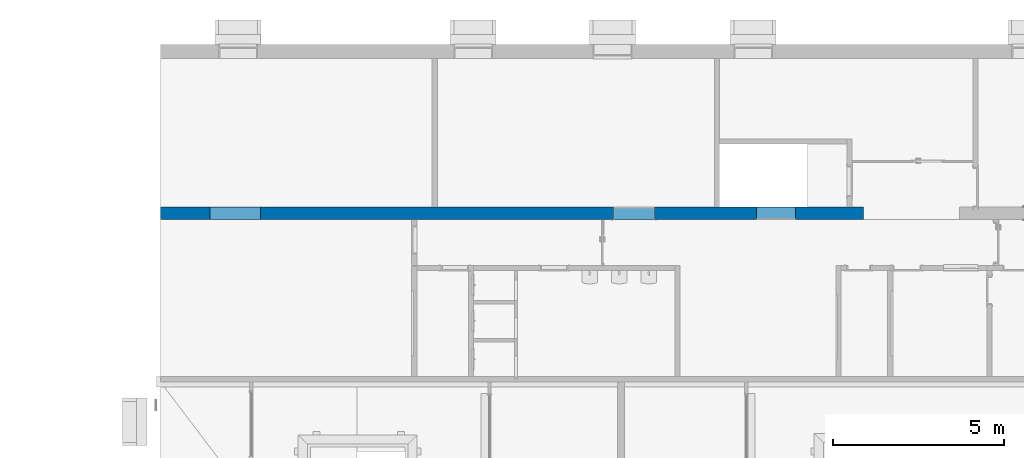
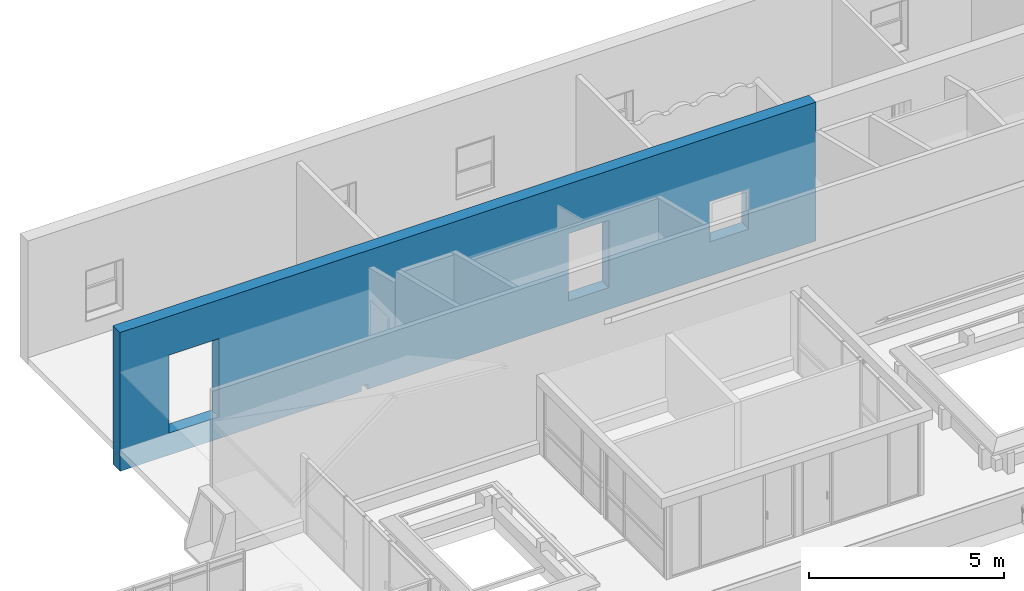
# One storey, part 138 of 153: 1 wall, 4 openings.
"""IFC4 building model written with IfcOpenShell, lengths in metres."""

from ifc_helpers import new_model, entity, si_unit, converted_unit, derived_unit, direction, frame, origin, place, context, subcontext, project, spatial, indexed_curve, outline, extrude, polygons, material, type_object, element, save


model = new_model("IFC4")

# Units and contexts
model_context = context("Model", 3, precision=1e-05, world=origin(), true_north=direction((6.123031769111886e-17, 1.0)))
body_context = subcontext(model_context, "Body", "Model", "MODEL_VIEW")
ifc_project = project(units=[si_unit("LENGTHUNIT", "METRE"), si_unit("AREAUNIT", "SQUARE_METRE"), si_unit("VOLUMEUNIT", "CUBIC_METRE"), converted_unit("PLANEANGLEUNIT", "DEGREE", entity("IfcRatioMeasure", 0.017453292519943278), si_unit("PLANEANGLEUNIT", "RADIAN"), dimensions=[0, 0, 0, 0, 0, 0, 0]), si_unit("MASSUNIT", "GRAM", prefix="KILO"), derived_unit("MASSDENSITYUNIT", [(si_unit("MASSUNIT", "GRAM", prefix="KILO"), 1), (si_unit("LENGTHUNIT", "METRE"), -3)]), derived_unit("MOMENTOFINERTIAUNIT", [(si_unit("LENGTHUNIT", "METRE"), 4)]), si_unit("TIMEUNIT", "SECOND"), si_unit("FREQUENCYUNIT", "HERTZ"), si_unit("THERMODYNAMICTEMPERATUREUNIT", "DEGREE_CELSIUS"), derived_unit("THERMALTRANSMITTANCEUNIT", [(si_unit("MASSUNIT", "GRAM", prefix="KILO"), 1), (si_unit("THERMODYNAMICTEMPERATUREUNIT", "KELVIN"), -1), (si_unit("TIMEUNIT", "SECOND"), -3)]), derived_unit("VOLUMETRICFLOWRATEUNIT", [(si_unit("LENGTHUNIT", "METRE"), 3), (si_unit("TIMEUNIT", "SECOND"), -1)]), derived_unit("MASSFLOWRATEUNIT", [(si_unit("MASSUNIT", "GRAM", prefix="KILO"), 1), (si_unit("TIMEUNIT", "SECOND"), -1)]), derived_unit("ROTATIONALFREQUENCYUNIT", [(si_unit("TIMEUNIT", "SECOND"), -1)]), si_unit("ELECTRICCURRENTUNIT", "AMPERE"), si_unit("ELECTRICVOLTAGEUNIT", "VOLT"), si_unit("POWERUNIT", "WATT"), si_unit("FORCEUNIT", "NEWTON", prefix="KILO"), si_unit("ILLUMINANCEUNIT", "LUX"), si_unit("LUMINOUSFLUXUNIT", "LUMEN"), si_unit("LUMINOUSINTENSITYUNIT", "CANDELA"), derived_unit("USERDEFINED", [(si_unit("MASSUNIT", "GRAM", prefix="KILO"), -1), (si_unit("LENGTHUNIT", "METRE"), -2), (si_unit("TIMEUNIT", "SECOND"), 3), (si_unit("LUMINOUSFLUXUNIT", "LUMEN"), 1)]), derived_unit("SOUNDPOWERUNIT", [(si_unit("MASSUNIT", "GRAM", prefix="KILO"), 1), (si_unit("LENGTHUNIT", "METRE"), 2), (si_unit("TIMEUNIT", "SECOND"), -3)]), derived_unit("SOUNDPRESSUREUNIT", [(si_unit("MASSUNIT", "GRAM", prefix="KILO"), 1), (si_unit("LENGTHUNIT", "METRE"), -1), (si_unit("TIMEUNIT", "SECOND"), -2)]), derived_unit("LINEARVELOCITYUNIT", [(si_unit("LENGTHUNIT", "METRE"), 1), (si_unit("TIMEUNIT", "SECOND"), -1)]), si_unit("PRESSUREUNIT", "PASCAL"), derived_unit("USERDEFINED", [(si_unit("LENGTHUNIT", "METRE"), -2), (si_unit("MASSUNIT", "GRAM", prefix="KILO"), 1), (si_unit("TIMEUNIT", "SECOND"), -2)]), derived_unit("LINEARFORCEUNIT", [(si_unit("MASSUNIT", "GRAM", prefix="KILO"), 1), (si_unit("LENGTHUNIT", "METRE"), 1), (si_unit("TIMEUNIT", "SECOND"), -2), (si_unit("LENGTHUNIT", "METRE"), -1)]), derived_unit("PLANARFORCEUNIT", [(si_unit("MASSUNIT", "GRAM", prefix="KILO"), 1), (si_unit("LENGTHUNIT", "METRE"), 1), (si_unit("TIMEUNIT", "SECOND"), -2), (si_unit("LENGTHUNIT", "METRE"), -2)])], contexts=[model_context])

# Site, building, storey
site_placement = place(None, origin())
site = spatial("IfcSite", under=ifc_project, at=site_placement, Name="Superficie", CompositionType="ELEMENT")
building_placement = place(site_placement, origin())
building = spatial("IfcBuilding", under=site, at=building_placement, CompositionType="ELEMENT")
storey_placement = place(building_placement, frame((0.0, 0.0, 3.5999999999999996)))
storey = spatial("IfcBuildingStorey", under=building, at=storey_placement, Name="Nivel 1", CompositionType="ELEMENT", Elevation=3.5999999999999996)

# Wall, openings
ifc_material = material(Name="Muro por defecto", Category="Varios")
wall_type = type_object("IfcWallType", Name="Muro básico:Por defecto - 36 cm 2", PredefinedType="STANDARD")
wall_placement = place(storey_placement, frame((-22.643200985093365, 10.5508292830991, -0.16372451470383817)))
wall = element("IfcWall", 1, at=wall_placement, inside=storey, type_object=wall_type, material=ifc_material, Name="Muro básico:Por defecto - 36 cm 2", ObjectType="Muro básico:Por defecto - 36 cm 2", PredefinedType="NOTDEFINED", context=body_context, shape_type="Tessellation", body=[
    polygons([(1.4500000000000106, -0.18000000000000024, 3.122124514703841), (2.9200000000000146, -0.18000000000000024, 3.122124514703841), (2.9200000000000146, -0.18000000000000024, 0.6837245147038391), (1.4500000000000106, -0.18000000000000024, 0.6837245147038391), (13.244202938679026, -0.18000000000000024, 0.683724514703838), (13.244202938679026, -0.18000000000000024, 2.783724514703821), (14.444202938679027, -0.1800000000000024, 2.783724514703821), (14.444202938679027, -0.1800000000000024, 0.683724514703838), (20.55540000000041, -0.1800000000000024, -5.414335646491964e-16), (20.555400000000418, -0.1800000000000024, 0.16372451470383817), (20.555400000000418, -0.1800000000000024, 4.333724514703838), (2.5539128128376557e-15, -0.18000000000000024, 4.333724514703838), (6.885381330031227e-15, -0.18000000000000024, -5.414335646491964e-16), (7.139999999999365, -0.18000000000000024, -5.414335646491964e-16), (7.139999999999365, -0.18000000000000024, 0.16372451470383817), (7.319999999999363, -0.1800000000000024, 0.16372451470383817), (7.319999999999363, -0.1800000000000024, -5.414335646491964e-16), (18.574202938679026, -0.1800000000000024, 2.3137245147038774), (18.574202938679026, -0.1800000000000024, 1.0637245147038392), (17.424202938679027, -0.18000000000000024, 1.0637245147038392), (17.424202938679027, -0.18000000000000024, 2.3137245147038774), (2.9200000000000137, 0.18000000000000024, 3.122124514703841), (1.4500000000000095, 0.18000000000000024, 3.122124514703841), (1.4500000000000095, 0.18000000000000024, 0.6837245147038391), (2.9200000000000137, 0.18000000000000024, 0.6837245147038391), (13.244202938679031, 0.18000000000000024, 2.783724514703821), (13.244202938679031, 0.18000000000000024, 0.6837245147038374), (14.444202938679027, 0.17999999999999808, 0.683724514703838), (14.444202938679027, 0.17999999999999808, 2.783724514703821), (20.55540000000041, 0.17999999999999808, 4.333724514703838), (20.55540000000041, 0.17999999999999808, 0.16372451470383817), (20.555400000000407, 0.17999999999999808, -5.414335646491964e-16), (15.390000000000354, 0.18000000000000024, -5.414335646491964e-16), (15.390000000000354, 0.18000000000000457, 0.3637245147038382), (15.210000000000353, 0.1800000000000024, 0.3637245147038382), (15.210000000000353, 0.17999999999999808, -5.414335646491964e-16), (7.319999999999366, 0.17999999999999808, -5.414335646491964e-16), (7.319999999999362, 0.17999999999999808, 0.16372451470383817), (7.1399999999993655, 0.18000000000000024, 0.16372451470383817), (7.1399999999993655, 0.18000000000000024, -5.414335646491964e-16), (5.771177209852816e-15, 0.18000000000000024, -5.414335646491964e-16), (5.771177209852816e-15, 0.18000000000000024, 4.333724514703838), (18.574202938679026, 0.17999999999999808, 1.0637245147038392), (18.574202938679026, 0.17999999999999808, 2.3137245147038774), (17.424202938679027, 0.18000000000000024, 2.3137245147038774), (17.424202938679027, 0.18000000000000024, 1.0637245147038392), (15.390000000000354, -0.08287037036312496, 0.3637245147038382), (15.390000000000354, -0.08287037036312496, -5.414335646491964e-16), (15.210000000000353, -0.08287037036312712, 0.3637245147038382), (15.210000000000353, -0.08287037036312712, -5.414335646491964e-16)], [[[9, 10, 11, 12, 13, 14, 15, 16, 17], [1, 2, 3, 4], [5, 6, 7, 8], [18, 19, 20, 21]], [[30, 31, 32, 33, 34, 35, 36, 37, 38, 39, 40, 41, 42], [22, 23, 24, 25], [26, 27, 28, 29], [43, 44, 45, 46]], [[13, 41, 40, 14]], [[11, 10, 9, 32, 31, 30]], [[12, 11, 30, 42]], [[1, 23, 22, 2]], [[3, 25, 24, 4]], [[2, 22, 25, 3]], [[23, 1, 4, 24]], [[13, 12, 42, 41]], [[6, 5, 27, 26]], [[7, 6, 26, 29]], [[8, 7, 29, 28]], [[5, 8, 28, 27]], [[47, 34, 33, 48]], [[35, 49, 50, 36]], [[49, 47, 48, 50]], [[34, 47, 49, 35]], [[44, 43, 19, 18]], [[45, 44, 18, 21]], [[46, 45, 21, 20]], [[43, 46, 20, 19]], [[16, 38, 37, 17]], [[39, 15, 14, 40]], [[38, 16, 15, 39]], [[32, 9, 17, 37, 36, 50, 48, 33]]], closed=True),
])
opening_1_placement = place(storey_placement, frame((-22.643200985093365, 10.5508292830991, -0.16372451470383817)))
element("IfcOpeningElement", 2, at=opening_1_placement, cuts=wall, Name="Muro básico:Por defecto - 36 cm 2:1", PredefinedType="OPENING", context=body_context, shape_type="SweptSolid", body=[
    extrude(outline(indexed_curve([(-0.13143518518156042, -0.1818622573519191), (0.13143518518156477, -0.1818622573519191), (0.13143518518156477, 0.18186225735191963), (-0.13143518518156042, 0.18186225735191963), (-0.13143518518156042, -0.1818622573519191)], self_intersect=False)), frame((15.210000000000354, 0.048564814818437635, 0.1818622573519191), z_axis=(1.0, 0.0, 0.0), x_axis=(0.0, -1.0, 0.0)), (0.0, 0.0, 1.0), 0.18000000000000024),
])
opening_2_placement = place(wall_placement, origin())
element("IfcOpeningElement", 3, at=opening_2_placement, cuts=wall, Name="Muro básico:Por defecto - 36 cm 2", PredefinedType="OPENING", context=body_context, shape_type="SweptSolid", body=[
    extrude(outline(indexed_curve([(-1.2192, -0.7350000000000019), (1.2192000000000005, -0.7350000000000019), (1.2192000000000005, 0.7350000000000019), (-1.2192, 0.7350000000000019), (-1.2192, -0.7350000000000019)], self_intersect=False)), frame((2.1850000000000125, -0.18000000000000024, 1.9029245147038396), z_axis=(0.0, 1.0, 0.0), x_axis=(0.0, 0.0, -1.0)), (0.0, 0.0, 1.0), 0.3600000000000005),
])
opening_3_placement = place(wall_placement, frame((13.244202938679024, -0.18000000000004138, 0.683724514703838)))
element("IfcOpeningElement", 4, at=opening_3_placement, cuts=wall, Name="Puerta de 1 hoja:120 x 210 cm 3:1", PredefinedType="OPENING", context=body_context, shape_type="SweptSolid", body=[
    extrude(outline(indexed_curve([(0.0, 1.082867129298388e-15), (2.099999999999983, 1.082867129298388e-15), (2.099999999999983, 1.2000000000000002), (0.0, 1.2000000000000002), (0.0, 1.082867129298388e-15)], self_intersect=False)), frame((0.0, 0.0, 0.0), z_axis=(0.0, 1.0, 0.0), x_axis=(0.0, 0.0, 1.0)), (0.0, 0.0, 1.0), 0.36),
])
opening_4_placement = place(wall_placement, frame((17.424202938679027, -0.18000000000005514, 1.0637245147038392)))
element("IfcOpeningElement", 5, at=opening_4_placement, cuts=wall, Name="Ventana simple fija con cubrejuntas interior:1.15 x 1.20mm 2:1", PredefinedType="OPENING", context=body_context, shape_type="SweptSolid", body=[
    extrude(outline(indexed_curve([(0.0, 1.1499999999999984), (0.0, -2.408880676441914e-30), (1.250000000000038, -2.408880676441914e-30), (1.250000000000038, 1.1499999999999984), (0.0, 1.1499999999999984)], self_intersect=False)), frame((0.0, 0.0, 0.0), z_axis=(0.0, 1.0, 0.0), x_axis=(0.0, 0.0, 1.0)), (0.0, 0.0, 1.0), 0.36),
])

save(model, "model.ifc")
